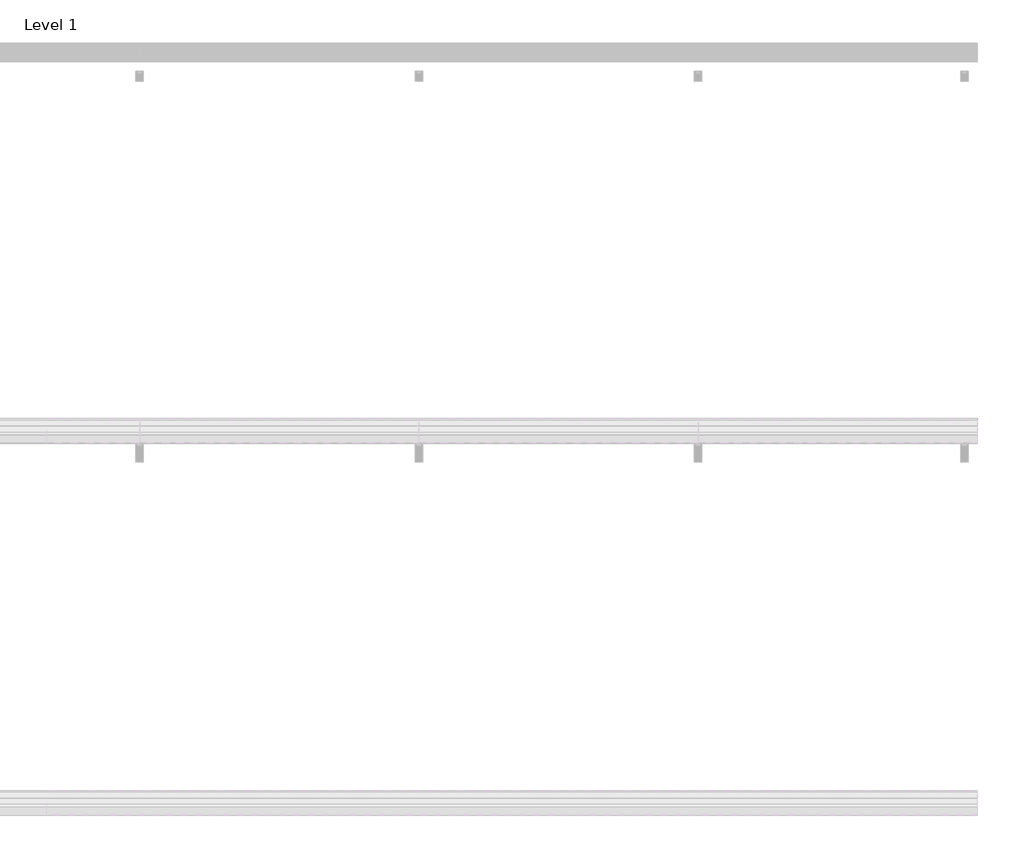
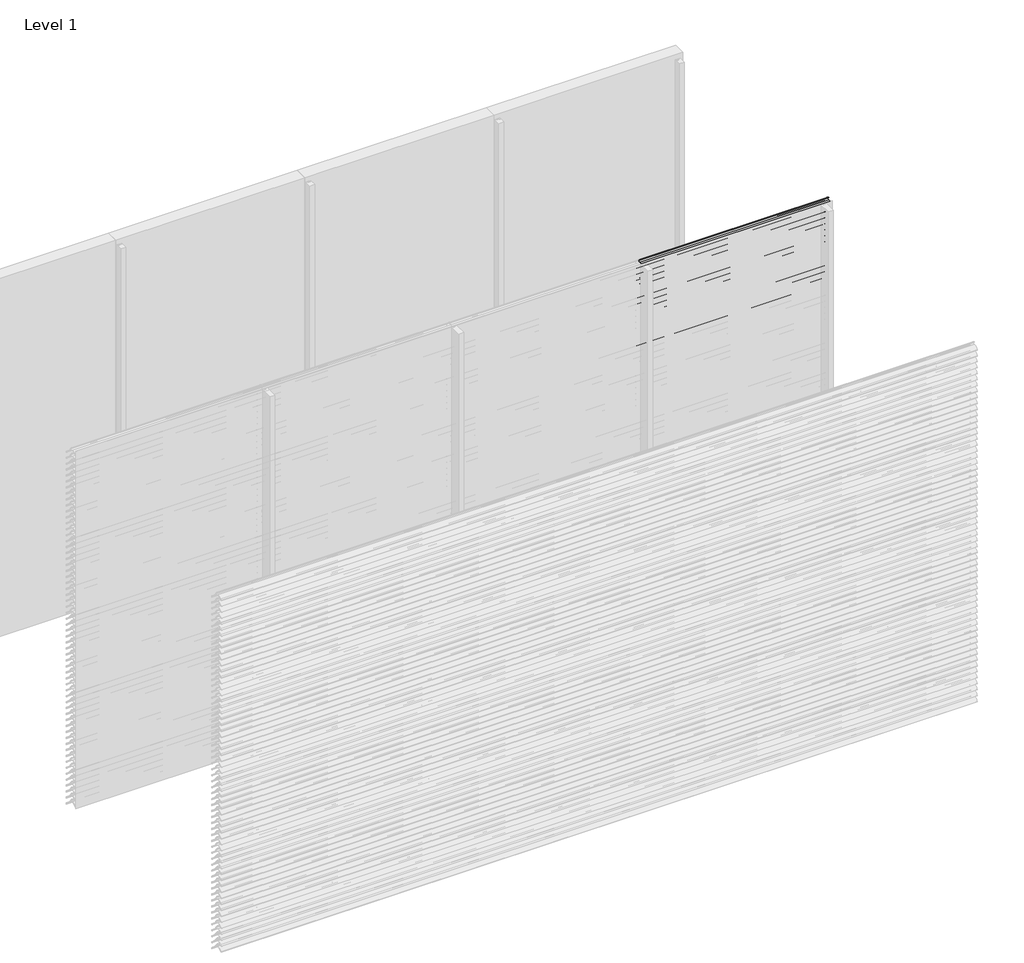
# One storey, part 68 of 173: 17 proxies.
"""IFC4 building model written with IfcOpenShell, lengths in millimetres."""

from ifc_helpers import new_model, si_unit, point, frame, frame_2d, origin, place, context, project, spatial, polyline, circle_curve, trimmed, segment, composite_curve, outline, extrude, element, save

model = new_model("IFC4")

# Units and contexts
model_context = context("Model", 3, world=origin())
ifc_project = project(units=[si_unit("LENGTHUNIT", "METRE", prefix="MILLI")], contexts=[model_context])

# Site, building, storey
site = spatial("IfcSite", under=ifc_project)
building = spatial("IfcBuilding", under=site)
storey = spatial("IfcBuildingStorey", under=building, Name="Level 1", Elevation=0.0)

# Proxies
placement = place(None, origin())
element("IfcBuildingElementProxy", 1, Name="Wall Sweeps", at=placement, inside=storey, context=model_context, shape_type="SweptSolid", body=[
    extrude(outline(composite_curve([segment(polyline([(-35998.0, 59.1474905), (-35998.0, 61.6227417)]), True, "CONTINUOUS"), segment(trimmed(circle_curve(frame_2d((-35951.2682172, 16.2200208)), 65.1557103), [point((-35998.0, 61.6227417))], [point((-35954.4014323, 81.3003524))], False, "CARTESIAN"), True, "CONTINUOUS"), segment(polyline([(-35954.4014323, 81.3003524), (-35934.8315836, 81.3003524)]), True, "CONTINUOUS"), segment(trimmed(circle_curve(frame_2d((-35732.7329489, 228.5533172)), 250.0545817), [point((-35934.8315836, 81.3003524))], [point((-35941.4452143, 90.8344583))], False, "CARTESIAN"), True, "CONTINUOUS"), segment(trimmed(circle_curve(frame_2d((-35953.2981792, 85.1737835)), 13.1352966), [point((-35941.4452143, 90.8344583))], [point((-35953.8171475, 98.298824))], True, "CARTESIAN"), True, "CONTINUOUS"), segment(polyline([(-35953.8171475, 98.298824), (-35953.8171475, 100.0)]), True, "CONTINUOUS"), segment(trimmed(circle_curve(frame_2d((-35953.2981792, 85.1737835)), 14.8352966), [point((-35953.8171475, 100.0))], [point((-35939.9637661, 91.6760487))], False, "CARTESIAN"), True, "CONTINUOUS"), segment(trimmed(circle_curve(frame_2d((-35732.7329489, 228.5533172)), 248.3545817), [point((-35939.9637661, 91.6760487))], [point((-35873.8787895, 24.2059416))], True, "CARTESIAN"), True, "CONTINUOUS"), segment(trimmed(circle_curve(frame_2d((-35883.8147537, 11.6649442)), 16.0), [point((-35873.8787895, 24.2059416))], [point((-35867.8648347, 10.4))], False, "CARTESIAN"), True, "CONTINUOUS"), segment(polyline([(-35867.8648347, 10.4), (-35869.6712069, 10.4)]), True, "CONTINUOUS"), segment(trimmed(circle_curve(frame_2d((-35883.8147537, 11.6649442)), 14.2), [point((-35869.6712069, 10.4))], [point((-35874.9518628, 22.7594998))], True, "CARTESIAN"), True, "CONTINUOUS"), segment(trimmed(circle_curve(frame_2d((-35732.7329489, 228.5533172)), 250.1545817), [point((-35874.9518628, 22.7594998))], [point((-35933.7064024, 79.6003524))], False, "CARTESIAN"), True, "CONTINUOUS"), segment(polyline([(-35933.7064024, 79.6003524), (-35954.3602632, 79.6003524)]), True, "CONTINUOUS"), segment(trimmed(circle_curve(frame_2d((-35951.2682172, 16.2200208)), 63.4557103), [point((-35954.3602632, 79.6003524))], [point((-35998.0, 59.1474905))], True, "CARTESIAN"), True, "CONTINUOUS")], self_intersect=False)), frame((3000.0, 0.0, 0.0), z_axis=(1.0, 0.0, 0.0), x_axis=(0.0, 1.0, 0.0)), (0.0, 0.0, 1.0), 1500.0),
])
element("IfcBuildingElementProxy", 2, Name="Wall Sweeps", at=placement, inside=storey, context=model_context, shape_type="SweptSolid", body=[
    extrude(outline(composite_curve([segment(polyline([(-35998.0, 9.1474905), (-35998.0, 11.6227417)]), True, "CONTINUOUS"), segment(trimmed(circle_curve(frame_2d((-35951.2682172, -33.7799792)), 65.1557103), [point((-35998.0, 11.6227417))], [point((-35954.4014323, 31.3003524))], False, "CARTESIAN"), True, "CONTINUOUS"), segment(polyline([(-35954.4014323, 31.3003524), (-35934.8315836, 31.3003524)]), True, "CONTINUOUS"), segment(trimmed(circle_curve(frame_2d((-35732.7329489, 178.5533172)), 250.0545817), [point((-35934.8315836, 31.3003524))], [point((-35941.4452143, 40.8344583))], False, "CARTESIAN"), True, "CONTINUOUS"), segment(trimmed(circle_curve(frame_2d((-35953.2981792, 35.1737835)), 13.1352966), [point((-35941.4452143, 40.8344583))], [point((-35953.8171475, 48.298824))], True, "CARTESIAN"), True, "CONTINUOUS"), segment(polyline([(-35953.8171475, 48.298824), (-35953.8171475, 50.0)]), True, "CONTINUOUS"), segment(trimmed(circle_curve(frame_2d((-35953.2981792, 35.1737835)), 14.8352966), [point((-35953.8171475, 50.0))], [point((-35939.9637661, 41.6760487))], False, "CARTESIAN"), True, "CONTINUOUS"), segment(trimmed(circle_curve(frame_2d((-35732.7329489, 178.5533172)), 248.3545817), [point((-35939.9637661, 41.6760487))], [point((-35873.8787895, -25.7940584))], True, "CARTESIAN"), True, "CONTINUOUS"), segment(trimmed(circle_curve(frame_2d((-35883.8147537, -38.3350558)), 16.0), [point((-35873.8787895, -25.7940584))], [point((-35867.8648347, -39.6))], False, "CARTESIAN"), True, "CONTINUOUS"), segment(polyline([(-35867.8648347, -39.6), (-35869.6712069, -39.6)]), True, "CONTINUOUS"), segment(trimmed(circle_curve(frame_2d((-35883.8147537, -38.3350558)), 14.2), [point((-35869.6712069, -39.6))], [point((-35874.9518628, -27.2405002))], True, "CARTESIAN"), True, "CONTINUOUS"), segment(trimmed(circle_curve(frame_2d((-35732.7329489, 178.5533172)), 250.1545817), [point((-35874.9518628, -27.2405002))], [point((-35933.7064024, 29.6003524))], False, "CARTESIAN"), True, "CONTINUOUS"), segment(polyline([(-35933.7064024, 29.6003524), (-35954.3602632, 29.6003524)]), True, "CONTINUOUS"), segment(trimmed(circle_curve(frame_2d((-35951.2682172, -33.7799792)), 63.4557103), [point((-35954.3602632, 29.6003524))], [point((-35998.0, 9.1474905))], True, "CARTESIAN"), True, "CONTINUOUS")], self_intersect=False)), frame((3000.0, 0.0, 0.0), z_axis=(1.0, 0.0, 0.0), x_axis=(0.0, 1.0, 0.0)), (0.0, 0.0, 1.0), 1500.0),
])
element("IfcBuildingElementProxy", 3, Name="Wall Sweeps", at=placement, inside=storey, context=model_context, shape_type="SweptSolid", body=[
    extrude(outline(composite_curve([segment(polyline([(-35998.0, 2959.1474905), (-35998.0, 2961.6227417)]), True, "CONTINUOUS"), segment(trimmed(circle_curve(frame_2d((-35951.2682172, 2916.2200208)), 65.1557103), [point((-35998.0, 2961.6227417))], [point((-35954.4014323, 2981.3003524))], False, "CARTESIAN"), True, "CONTINUOUS"), segment(polyline([(-35954.4014323, 2981.3003524), (-35934.8315836, 2981.3003524)]), True, "CONTINUOUS"), segment(trimmed(circle_curve(frame_2d((-35732.7329489, 3128.5533172)), 250.0545817), [point((-35934.8315836, 2981.3003524))], [point((-35941.4452143, 2990.8344583))], False, "CARTESIAN"), True, "CONTINUOUS"), segment(trimmed(circle_curve(frame_2d((-35953.2981792, 2985.1737835)), 13.1352966), [point((-35941.4452143, 2990.8344583))], [point((-35953.8171475, 2998.298824))], True, "CARTESIAN"), True, "CONTINUOUS"), segment(polyline([(-35953.8171475, 2998.298824), (-35953.8171475, 3000.0)]), True, "CONTINUOUS"), segment(trimmed(circle_curve(frame_2d((-35953.2981792, 2985.1737835)), 14.8352966), [point((-35953.8171475, 3000.0))], [point((-35939.9637661, 2991.6760487))], False, "CARTESIAN"), True, "CONTINUOUS"), segment(trimmed(circle_curve(frame_2d((-35732.7329489, 3128.5533172)), 248.3545817), [point((-35939.9637661, 2991.6760487))], [point((-35873.8787895, 2924.2059416))], True, "CARTESIAN"), True, "CONTINUOUS"), segment(trimmed(circle_curve(frame_2d((-35883.8147537, 2911.6649442)), 16.0), [point((-35873.8787895, 2924.2059416))], [point((-35867.8648347, 2910.4))], False, "CARTESIAN"), True, "CONTINUOUS"), segment(polyline([(-35867.8648347, 2910.4), (-35869.6712069, 2910.4)]), True, "CONTINUOUS"), segment(trimmed(circle_curve(frame_2d((-35883.8147537, 2911.6649442)), 14.2), [point((-35869.6712069, 2910.4))], [point((-35874.9518628, 2922.7594998))], True, "CARTESIAN"), True, "CONTINUOUS"), segment(trimmed(circle_curve(frame_2d((-35732.7329489, 3128.5533172)), 250.1545817), [point((-35874.9518628, 2922.7594998))], [point((-35933.7064024, 2979.6003524))], False, "CARTESIAN"), True, "CONTINUOUS"), segment(polyline([(-35933.7064024, 2979.6003524), (-35954.3602632, 2979.6003524)]), True, "CONTINUOUS"), segment(trimmed(circle_curve(frame_2d((-35951.2682172, 2916.2200208)), 63.4557103), [point((-35954.3602632, 2979.6003524))], [point((-35998.0, 2959.1474905))], True, "CARTESIAN"), True, "CONTINUOUS")], self_intersect=False)), frame((4500.0, 0.0, 0.0), z_axis=(1.0, 0.0, 0.0), x_axis=(0.0, 1.0, 0.0)), (0.0, 0.0, 1.0), 1500.0),
])
element("IfcBuildingElementProxy", 4, Name="Wall Sweeps", at=placement, inside=storey, context=model_context, shape_type="SweptSolid", body=[
    extrude(outline(composite_curve([segment(polyline([(-35998.0, 2909.1474905), (-35998.0, 2911.6227417)]), True, "CONTINUOUS"), segment(trimmed(circle_curve(frame_2d((-35951.2682172, 2866.2200208)), 65.1557103), [point((-35998.0, 2911.6227417))], [point((-35954.4014323, 2931.3003524))], False, "CARTESIAN"), True, "CONTINUOUS"), segment(polyline([(-35954.4014323, 2931.3003524), (-35934.8315836, 2931.3003524)]), True, "CONTINUOUS"), segment(trimmed(circle_curve(frame_2d((-35732.7329489, 3078.5533172)), 250.0545817), [point((-35934.8315836, 2931.3003524))], [point((-35941.4452143, 2940.8344583))], False, "CARTESIAN"), True, "CONTINUOUS"), segment(trimmed(circle_curve(frame_2d((-35953.2981792, 2935.1737835)), 13.1352966), [point((-35941.4452143, 2940.8344583))], [point((-35953.8171475, 2948.298824))], True, "CARTESIAN"), True, "CONTINUOUS"), segment(polyline([(-35953.8171475, 2948.298824), (-35953.8171475, 2950.0)]), True, "CONTINUOUS"), segment(trimmed(circle_curve(frame_2d((-35953.2981792, 2935.1737835)), 14.8352966), [point((-35953.8171475, 2950.0))], [point((-35939.9637661, 2941.6760487))], False, "CARTESIAN"), True, "CONTINUOUS"), segment(trimmed(circle_curve(frame_2d((-35732.7329489, 3078.5533172)), 248.3545817), [point((-35939.9637661, 2941.6760487))], [point((-35873.8787895, 2874.2059416))], True, "CARTESIAN"), True, "CONTINUOUS"), segment(trimmed(circle_curve(frame_2d((-35883.8147537, 2861.6649442)), 16.0), [point((-35873.8787895, 2874.2059416))], [point((-35867.8648347, 2860.4))], False, "CARTESIAN"), True, "CONTINUOUS"), segment(polyline([(-35867.8648347, 2860.4), (-35869.6712069, 2860.4)]), True, "CONTINUOUS"), segment(trimmed(circle_curve(frame_2d((-35883.8147537, 2861.6649442)), 14.2), [point((-35869.6712069, 2860.4))], [point((-35874.9518628, 2872.7594998))], True, "CARTESIAN"), True, "CONTINUOUS"), segment(trimmed(circle_curve(frame_2d((-35732.7329489, 3078.5533172)), 250.1545817), [point((-35874.9518628, 2872.7594998))], [point((-35933.7064024, 2929.6003524))], False, "CARTESIAN"), True, "CONTINUOUS"), segment(polyline([(-35933.7064024, 2929.6003524), (-35954.3602632, 2929.6003524)]), True, "CONTINUOUS"), segment(trimmed(circle_curve(frame_2d((-35951.2682172, 2866.2200208)), 63.4557103), [point((-35954.3602632, 2929.6003524))], [point((-35998.0, 2909.1474905))], True, "CARTESIAN"), True, "CONTINUOUS")], self_intersect=False)), frame((4500.0, 0.0, 0.0), z_axis=(1.0, 0.0, 0.0), x_axis=(0.0, 1.0, 0.0)), (0.0, 0.0, 1.0), 1500.0),
])
element("IfcBuildingElementProxy", 5, Name="Wall Sweeps", at=placement, inside=storey, context=model_context, shape_type="SweptSolid", body=[
    extrude(outline(composite_curve([segment(polyline([(-35998.0, 2859.1474905), (-35998.0, 2861.6227417)]), True, "CONTINUOUS"), segment(trimmed(circle_curve(frame_2d((-35951.2682172, 2816.2200208)), 65.1557103), [point((-35998.0, 2861.6227417))], [point((-35954.4014323, 2881.3003524))], False, "CARTESIAN"), True, "CONTINUOUS"), segment(polyline([(-35954.4014323, 2881.3003524), (-35934.8315836, 2881.3003524)]), True, "CONTINUOUS"), segment(trimmed(circle_curve(frame_2d((-35732.7329489, 3028.5533172)), 250.0545817), [point((-35934.8315836, 2881.3003524))], [point((-35941.4452143, 2890.8344583))], False, "CARTESIAN"), True, "CONTINUOUS"), segment(trimmed(circle_curve(frame_2d((-35953.2981792, 2885.1737835)), 13.1352966), [point((-35941.4452143, 2890.8344583))], [point((-35953.8171475, 2898.298824))], True, "CARTESIAN"), True, "CONTINUOUS"), segment(polyline([(-35953.8171475, 2898.298824), (-35953.8171475, 2900.0)]), True, "CONTINUOUS"), segment(trimmed(circle_curve(frame_2d((-35953.2981792, 2885.1737835)), 14.8352966), [point((-35953.8171475, 2900.0))], [point((-35939.9637661, 2891.6760487))], False, "CARTESIAN"), True, "CONTINUOUS"), segment(trimmed(circle_curve(frame_2d((-35732.7329489, 3028.5533172)), 248.3545817), [point((-35939.9637661, 2891.6760487))], [point((-35873.8787895, 2824.2059416))], True, "CARTESIAN"), True, "CONTINUOUS"), segment(trimmed(circle_curve(frame_2d((-35883.8147537, 2811.6649442)), 16.0), [point((-35873.8787895, 2824.2059416))], [point((-35867.8648347, 2810.4))], False, "CARTESIAN"), True, "CONTINUOUS"), segment(polyline([(-35867.8648347, 2810.4), (-35869.6712069, 2810.4)]), True, "CONTINUOUS"), segment(trimmed(circle_curve(frame_2d((-35883.8147537, 2811.6649442)), 14.2), [point((-35869.6712069, 2810.4))], [point((-35874.9518628, 2822.7594998))], True, "CARTESIAN"), True, "CONTINUOUS"), segment(trimmed(circle_curve(frame_2d((-35732.7329489, 3028.5533172)), 250.1545817), [point((-35874.9518628, 2822.7594998))], [point((-35933.7064024, 2879.6003524))], False, "CARTESIAN"), True, "CONTINUOUS"), segment(polyline([(-35933.7064024, 2879.6003524), (-35954.3602632, 2879.6003524)]), True, "CONTINUOUS"), segment(trimmed(circle_curve(frame_2d((-35951.2682172, 2816.2200208)), 63.4557103), [point((-35954.3602632, 2879.6003524))], [point((-35998.0, 2859.1474905))], True, "CARTESIAN"), True, "CONTINUOUS")], self_intersect=False)), frame((4500.0, 0.0, 0.0), z_axis=(1.0, 0.0, 0.0), x_axis=(0.0, 1.0, 0.0)), (0.0, 0.0, 1.0), 1500.0),
])
element("IfcBuildingElementProxy", 6, Name="Wall Sweeps", at=placement, inside=storey, context=model_context, shape_type="SweptSolid", body=[
    extrude(outline(composite_curve([segment(polyline([(-35998.0, 2809.1474905), (-35998.0, 2811.6227417)]), True, "CONTINUOUS"), segment(trimmed(circle_curve(frame_2d((-35951.2682172, 2766.2200208)), 65.1557103), [point((-35998.0, 2811.6227417))], [point((-35954.4014323, 2831.3003524))], False, "CARTESIAN"), True, "CONTINUOUS"), segment(polyline([(-35954.4014323, 2831.3003524), (-35934.8315836, 2831.3003524)]), True, "CONTINUOUS"), segment(trimmed(circle_curve(frame_2d((-35732.7329489, 2978.5533172)), 250.0545817), [point((-35934.8315836, 2831.3003524))], [point((-35941.4452143, 2840.8344583))], False, "CARTESIAN"), True, "CONTINUOUS"), segment(trimmed(circle_curve(frame_2d((-35953.2981792, 2835.1737835)), 13.1352966), [point((-35941.4452143, 2840.8344583))], [point((-35953.8171475, 2848.298824))], True, "CARTESIAN"), True, "CONTINUOUS"), segment(polyline([(-35953.8171475, 2848.298824), (-35953.8171475, 2850.0)]), True, "CONTINUOUS"), segment(trimmed(circle_curve(frame_2d((-35953.2981792, 2835.1737835)), 14.8352966), [point((-35953.8171475, 2850.0))], [point((-35939.9637661, 2841.6760487))], False, "CARTESIAN"), True, "CONTINUOUS"), segment(trimmed(circle_curve(frame_2d((-35732.7329489, 2978.5533172)), 248.3545817), [point((-35939.9637661, 2841.6760487))], [point((-35873.8787895, 2774.2059416))], True, "CARTESIAN"), True, "CONTINUOUS"), segment(trimmed(circle_curve(frame_2d((-35883.8147537, 2761.6649442)), 16.0), [point((-35873.8787895, 2774.2059416))], [point((-35867.8648347, 2760.4))], False, "CARTESIAN"), True, "CONTINUOUS"), segment(polyline([(-35867.8648347, 2760.4), (-35869.6712069, 2760.4)]), True, "CONTINUOUS"), segment(trimmed(circle_curve(frame_2d((-35883.8147537, 2761.6649442)), 14.2), [point((-35869.6712069, 2760.4))], [point((-35874.9518628, 2772.7594998))], True, "CARTESIAN"), True, "CONTINUOUS"), segment(trimmed(circle_curve(frame_2d((-35732.7329489, 2978.5533172)), 250.1545817), [point((-35874.9518628, 2772.7594998))], [point((-35933.7064024, 2829.6003524))], False, "CARTESIAN"), True, "CONTINUOUS"), segment(polyline([(-35933.7064024, 2829.6003524), (-35954.3602632, 2829.6003524)]), True, "CONTINUOUS"), segment(trimmed(circle_curve(frame_2d((-35951.2682172, 2766.2200208)), 63.4557103), [point((-35954.3602632, 2829.6003524))], [point((-35998.0, 2809.1474905))], True, "CARTESIAN"), True, "CONTINUOUS")], self_intersect=False)), frame((4500.0, 0.0, 0.0), z_axis=(1.0, 0.0, 0.0), x_axis=(0.0, 1.0, 0.0)), (0.0, 0.0, 1.0), 1500.0),
])
element("IfcBuildingElementProxy", 7, Name="Wall Sweeps", at=placement, inside=storey, context=model_context, shape_type="SweptSolid", body=[
    extrude(outline(composite_curve([segment(polyline([(-35998.0, 2759.1474905), (-35998.0, 2761.6227417)]), True, "CONTINUOUS"), segment(trimmed(circle_curve(frame_2d((-35951.2682172, 2716.2200208)), 65.1557103), [point((-35998.0, 2761.6227417))], [point((-35954.4014323, 2781.3003524))], False, "CARTESIAN"), True, "CONTINUOUS"), segment(polyline([(-35954.4014323, 2781.3003524), (-35934.8315836, 2781.3003524)]), True, "CONTINUOUS"), segment(trimmed(circle_curve(frame_2d((-35732.7329489, 2928.5533172)), 250.0545817), [point((-35934.8315836, 2781.3003524))], [point((-35941.4452143, 2790.8344583))], False, "CARTESIAN"), True, "CONTINUOUS"), segment(trimmed(circle_curve(frame_2d((-35953.2981792, 2785.1737835)), 13.1352966), [point((-35941.4452143, 2790.8344583))], [point((-35953.8171475, 2798.298824))], True, "CARTESIAN"), True, "CONTINUOUS"), segment(polyline([(-35953.8171475, 2798.298824), (-35953.8171475, 2800.0)]), True, "CONTINUOUS"), segment(trimmed(circle_curve(frame_2d((-35953.2981792, 2785.1737835)), 14.8352966), [point((-35953.8171475, 2800.0))], [point((-35939.9637661, 2791.6760487))], False, "CARTESIAN"), True, "CONTINUOUS"), segment(trimmed(circle_curve(frame_2d((-35732.7329489, 2928.5533172)), 248.3545817), [point((-35939.9637661, 2791.6760487))], [point((-35873.8787895, 2724.2059416))], True, "CARTESIAN"), True, "CONTINUOUS"), segment(trimmed(circle_curve(frame_2d((-35883.8147537, 2711.6649442)), 16.0), [point((-35873.8787895, 2724.2059416))], [point((-35867.8648347, 2710.4))], False, "CARTESIAN"), True, "CONTINUOUS"), segment(polyline([(-35867.8648347, 2710.4), (-35869.6712069, 2710.4)]), True, "CONTINUOUS"), segment(trimmed(circle_curve(frame_2d((-35883.8147537, 2711.6649442)), 14.2), [point((-35869.6712069, 2710.4))], [point((-35874.9518628, 2722.7594998))], True, "CARTESIAN"), True, "CONTINUOUS"), segment(trimmed(circle_curve(frame_2d((-35732.7329489, 2928.5533172)), 250.1545817), [point((-35874.9518628, 2722.7594998))], [point((-35933.7064024, 2779.6003524))], False, "CARTESIAN"), True, "CONTINUOUS"), segment(polyline([(-35933.7064024, 2779.6003524), (-35954.3602632, 2779.6003524)]), True, "CONTINUOUS"), segment(trimmed(circle_curve(frame_2d((-35951.2682172, 2716.2200208)), 63.4557103), [point((-35954.3602632, 2779.6003524))], [point((-35998.0, 2759.1474905))], True, "CARTESIAN"), True, "CONTINUOUS")], self_intersect=False)), frame((4500.0, 0.0, 0.0), z_axis=(1.0, 0.0, 0.0), x_axis=(0.0, 1.0, 0.0)), (0.0, 0.0, 1.0), 1500.0),
])
element("IfcBuildingElementProxy", 8, Name="Wall Sweeps", at=placement, inside=storey, context=model_context, shape_type="SweptSolid", body=[
    extrude(outline(composite_curve([segment(polyline([(-35998.0, 2709.1474905), (-35998.0, 2711.6227417)]), True, "CONTINUOUS"), segment(trimmed(circle_curve(frame_2d((-35951.2682172, 2666.2200208)), 65.1557103), [point((-35998.0, 2711.6227417))], [point((-35954.4014323, 2731.3003524))], False, "CARTESIAN"), True, "CONTINUOUS"), segment(polyline([(-35954.4014323, 2731.3003524), (-35934.8315836, 2731.3003524)]), True, "CONTINUOUS"), segment(trimmed(circle_curve(frame_2d((-35732.7329489, 2878.5533172)), 250.0545817), [point((-35934.8315836, 2731.3003524))], [point((-35941.4452143, 2740.8344583))], False, "CARTESIAN"), True, "CONTINUOUS"), segment(trimmed(circle_curve(frame_2d((-35953.2981792, 2735.1737835)), 13.1352966), [point((-35941.4452143, 2740.8344583))], [point((-35953.8171475, 2748.298824))], True, "CARTESIAN"), True, "CONTINUOUS"), segment(polyline([(-35953.8171475, 2748.298824), (-35953.8171475, 2750.0)]), True, "CONTINUOUS"), segment(trimmed(circle_curve(frame_2d((-35953.2981792, 2735.1737835)), 14.8352966), [point((-35953.8171475, 2750.0))], [point((-35939.9637661, 2741.6760487))], False, "CARTESIAN"), True, "CONTINUOUS"), segment(trimmed(circle_curve(frame_2d((-35732.7329489, 2878.5533172)), 248.3545817), [point((-35939.9637661, 2741.6760487))], [point((-35873.8787895, 2674.2059416))], True, "CARTESIAN"), True, "CONTINUOUS"), segment(trimmed(circle_curve(frame_2d((-35883.8147537, 2661.6649442)), 16.0), [point((-35873.8787895, 2674.2059416))], [point((-35867.8648347, 2660.4))], False, "CARTESIAN"), True, "CONTINUOUS"), segment(polyline([(-35867.8648347, 2660.4), (-35869.6712069, 2660.4)]), True, "CONTINUOUS"), segment(trimmed(circle_curve(frame_2d((-35883.8147537, 2661.6649442)), 14.2), [point((-35869.6712069, 2660.4))], [point((-35874.9518628, 2672.7594998))], True, "CARTESIAN"), True, "CONTINUOUS"), segment(trimmed(circle_curve(frame_2d((-35732.7329489, 2878.5533172)), 250.1545817), [point((-35874.9518628, 2672.7594998))], [point((-35933.7064024, 2729.6003524))], False, "CARTESIAN"), True, "CONTINUOUS"), segment(polyline([(-35933.7064024, 2729.6003524), (-35954.3602632, 2729.6003524)]), True, "CONTINUOUS"), segment(trimmed(circle_curve(frame_2d((-35951.2682172, 2666.2200208)), 63.4557103), [point((-35954.3602632, 2729.6003524))], [point((-35998.0, 2709.1474905))], True, "CARTESIAN"), True, "CONTINUOUS")], self_intersect=False)), frame((4500.0, 0.0, 0.0), z_axis=(1.0, 0.0, 0.0), x_axis=(0.0, 1.0, 0.0)), (0.0, 0.0, 1.0), 1500.0),
])
element("IfcBuildingElementProxy", 9, Name="Wall Sweeps", at=placement, inside=storey, context=model_context, shape_type="SweptSolid", body=[
    extrude(outline(composite_curve([segment(polyline([(-35998.0, 2659.1474905), (-35998.0, 2661.6227417)]), True, "CONTINUOUS"), segment(trimmed(circle_curve(frame_2d((-35951.2682172, 2616.2200208)), 65.1557103), [point((-35998.0, 2661.6227417))], [point((-35954.4014323, 2681.3003524))], False, "CARTESIAN"), True, "CONTINUOUS"), segment(polyline([(-35954.4014323, 2681.3003524), (-35934.8315836, 2681.3003524)]), True, "CONTINUOUS"), segment(trimmed(circle_curve(frame_2d((-35732.7329489, 2828.5533172)), 250.0545817), [point((-35934.8315836, 2681.3003524))], [point((-35941.4452143, 2690.8344583))], False, "CARTESIAN"), True, "CONTINUOUS"), segment(trimmed(circle_curve(frame_2d((-35953.2981792, 2685.1737835)), 13.1352966), [point((-35941.4452143, 2690.8344583))], [point((-35953.8171475, 2698.298824))], True, "CARTESIAN"), True, "CONTINUOUS"), segment(polyline([(-35953.8171475, 2698.298824), (-35953.8171475, 2700.0)]), True, "CONTINUOUS"), segment(trimmed(circle_curve(frame_2d((-35953.2981792, 2685.1737835)), 14.8352966), [point((-35953.8171475, 2700.0))], [point((-35939.9637661, 2691.6760487))], False, "CARTESIAN"), True, "CONTINUOUS"), segment(trimmed(circle_curve(frame_2d((-35732.7329489, 2828.5533172)), 248.3545817), [point((-35939.9637661, 2691.6760487))], [point((-35873.8787895, 2624.2059416))], True, "CARTESIAN"), True, "CONTINUOUS"), segment(trimmed(circle_curve(frame_2d((-35883.8147537, 2611.6649442)), 16.0), [point((-35873.8787895, 2624.2059416))], [point((-35867.8648347, 2610.4))], False, "CARTESIAN"), True, "CONTINUOUS"), segment(polyline([(-35867.8648347, 2610.4), (-35869.6712069, 2610.4)]), True, "CONTINUOUS"), segment(trimmed(circle_curve(frame_2d((-35883.8147537, 2611.6649442)), 14.2), [point((-35869.6712069, 2610.4))], [point((-35874.9518628, 2622.7594998))], True, "CARTESIAN"), True, "CONTINUOUS"), segment(trimmed(circle_curve(frame_2d((-35732.7329489, 2828.5533172)), 250.1545817), [point((-35874.9518628, 2622.7594998))], [point((-35933.7064024, 2679.6003524))], False, "CARTESIAN"), True, "CONTINUOUS"), segment(polyline([(-35933.7064024, 2679.6003524), (-35954.3602632, 2679.6003524)]), True, "CONTINUOUS"), segment(trimmed(circle_curve(frame_2d((-35951.2682172, 2616.2200208)), 63.4557103), [point((-35954.3602632, 2679.6003524))], [point((-35998.0, 2659.1474905))], True, "CARTESIAN"), True, "CONTINUOUS")], self_intersect=False)), frame((4500.0, 0.0, 0.0), z_axis=(1.0, 0.0, 0.0), x_axis=(0.0, 1.0, 0.0)), (0.0, 0.0, 1.0), 1500.0),
])
element("IfcBuildingElementProxy", 10, Name="Wall Sweeps", at=placement, inside=storey, context=model_context, shape_type="SweptSolid", body=[
    extrude(outline(composite_curve([segment(polyline([(-35998.0, 2609.1474905), (-35998.0, 2611.6227417)]), True, "CONTINUOUS"), segment(trimmed(circle_curve(frame_2d((-35951.2682172, 2566.2200208)), 65.1557103), [point((-35998.0, 2611.6227417))], [point((-35954.4014323, 2631.3003524))], False, "CARTESIAN"), True, "CONTINUOUS"), segment(polyline([(-35954.4014323, 2631.3003524), (-35934.8315836, 2631.3003524)]), True, "CONTINUOUS"), segment(trimmed(circle_curve(frame_2d((-35732.7329489, 2778.5533172)), 250.0545817), [point((-35934.8315836, 2631.3003524))], [point((-35941.4452143, 2640.8344583))], False, "CARTESIAN"), True, "CONTINUOUS"), segment(trimmed(circle_curve(frame_2d((-35953.2981792, 2635.1737835)), 13.1352966), [point((-35941.4452143, 2640.8344583))], [point((-35953.8171475, 2648.298824))], True, "CARTESIAN"), True, "CONTINUOUS"), segment(polyline([(-35953.8171475, 2648.298824), (-35953.8171475, 2650.0)]), True, "CONTINUOUS"), segment(trimmed(circle_curve(frame_2d((-35953.2981792, 2635.1737835)), 14.8352966), [point((-35953.8171475, 2650.0))], [point((-35939.9637661, 2641.6760487))], False, "CARTESIAN"), True, "CONTINUOUS"), segment(trimmed(circle_curve(frame_2d((-35732.7329489, 2778.5533172)), 248.3545817), [point((-35939.9637661, 2641.6760487))], [point((-35873.8787895, 2574.2059416))], True, "CARTESIAN"), True, "CONTINUOUS"), segment(trimmed(circle_curve(frame_2d((-35883.8147537, 2561.6649442)), 16.0), [point((-35873.8787895, 2574.2059416))], [point((-35867.8648347, 2560.4))], False, "CARTESIAN"), True, "CONTINUOUS"), segment(polyline([(-35867.8648347, 2560.4), (-35869.6712069, 2560.4)]), True, "CONTINUOUS"), segment(trimmed(circle_curve(frame_2d((-35883.8147537, 2561.6649442)), 14.2), [point((-35869.6712069, 2560.4))], [point((-35874.9518628, 2572.7594998))], True, "CARTESIAN"), True, "CONTINUOUS"), segment(trimmed(circle_curve(frame_2d((-35732.7329489, 2778.5533172)), 250.1545817), [point((-35874.9518628, 2572.7594998))], [point((-35933.7064024, 2629.6003524))], False, "CARTESIAN"), True, "CONTINUOUS"), segment(polyline([(-35933.7064024, 2629.6003524), (-35954.3602632, 2629.6003524)]), True, "CONTINUOUS"), segment(trimmed(circle_curve(frame_2d((-35951.2682172, 2566.2200208)), 63.4557103), [point((-35954.3602632, 2629.6003524))], [point((-35998.0, 2609.1474905))], True, "CARTESIAN"), True, "CONTINUOUS")], self_intersect=False)), frame((4500.0, 0.0, 0.0), z_axis=(1.0, 0.0, 0.0), x_axis=(0.0, 1.0, 0.0)), (0.0, 0.0, 1.0), 1500.0),
])
element("IfcBuildingElementProxy", 11, Name="Wall Sweeps", at=placement, inside=storey, context=model_context, shape_type="SweptSolid", body=[
    extrude(outline(composite_curve([segment(polyline([(-35998.0, 2559.1474905), (-35998.0, 2561.6227417)]), True, "CONTINUOUS"), segment(trimmed(circle_curve(frame_2d((-35951.2682172, 2516.2200208)), 65.1557103), [point((-35998.0, 2561.6227417))], [point((-35954.4014323, 2581.3003524))], False, "CARTESIAN"), True, "CONTINUOUS"), segment(polyline([(-35954.4014323, 2581.3003524), (-35934.8315836, 2581.3003524)]), True, "CONTINUOUS"), segment(trimmed(circle_curve(frame_2d((-35732.7329489, 2728.5533172)), 250.0545817), [point((-35934.8315836, 2581.3003524))], [point((-35941.4452143, 2590.8344583))], False, "CARTESIAN"), True, "CONTINUOUS"), segment(trimmed(circle_curve(frame_2d((-35953.2981792, 2585.1737835)), 13.1352966), [point((-35941.4452143, 2590.8344583))], [point((-35953.8171475, 2598.298824))], True, "CARTESIAN"), True, "CONTINUOUS"), segment(polyline([(-35953.8171475, 2598.298824), (-35953.8171475, 2600.0)]), True, "CONTINUOUS"), segment(trimmed(circle_curve(frame_2d((-35953.2981792, 2585.1737835)), 14.8352966), [point((-35953.8171475, 2600.0))], [point((-35939.9637661, 2591.6760487))], False, "CARTESIAN"), True, "CONTINUOUS"), segment(trimmed(circle_curve(frame_2d((-35732.7329489, 2728.5533172)), 248.3545817), [point((-35939.9637661, 2591.6760487))], [point((-35873.8787895, 2524.2059416))], True, "CARTESIAN"), True, "CONTINUOUS"), segment(trimmed(circle_curve(frame_2d((-35883.8147537, 2511.6649442)), 16.0), [point((-35873.8787895, 2524.2059416))], [point((-35867.8648347, 2510.4))], False, "CARTESIAN"), True, "CONTINUOUS"), segment(polyline([(-35867.8648347, 2510.4), (-35869.6712069, 2510.4)]), True, "CONTINUOUS"), segment(trimmed(circle_curve(frame_2d((-35883.8147537, 2511.6649442)), 14.2), [point((-35869.6712069, 2510.4))], [point((-35874.9518628, 2522.7594998))], True, "CARTESIAN"), True, "CONTINUOUS"), segment(trimmed(circle_curve(frame_2d((-35732.7329489, 2728.5533172)), 250.1545817), [point((-35874.9518628, 2522.7594998))], [point((-35933.7064024, 2579.6003524))], False, "CARTESIAN"), True, "CONTINUOUS"), segment(polyline([(-35933.7064024, 2579.6003524), (-35954.3602632, 2579.6003524)]), True, "CONTINUOUS"), segment(trimmed(circle_curve(frame_2d((-35951.2682172, 2516.2200208)), 63.4557103), [point((-35954.3602632, 2579.6003524))], [point((-35998.0, 2559.1474905))], True, "CARTESIAN"), True, "CONTINUOUS")], self_intersect=False)), frame((4500.0, 0.0, 0.0), z_axis=(1.0, 0.0, 0.0), x_axis=(0.0, 1.0, 0.0)), (0.0, 0.0, 1.0), 1500.0),
])
element("IfcBuildingElementProxy", 12, Name="Wall Sweeps", at=placement, inside=storey, context=model_context, shape_type="SweptSolid", body=[
    extrude(outline(composite_curve([segment(polyline([(-35998.0, 2509.1474905), (-35998.0, 2511.6227417)]), True, "CONTINUOUS"), segment(trimmed(circle_curve(frame_2d((-35951.2682172, 2466.2200208)), 65.1557103), [point((-35998.0, 2511.6227417))], [point((-35954.4014323, 2531.3003524))], False, "CARTESIAN"), True, "CONTINUOUS"), segment(polyline([(-35954.4014323, 2531.3003524), (-35934.8315836, 2531.3003524)]), True, "CONTINUOUS"), segment(trimmed(circle_curve(frame_2d((-35732.7329489, 2678.5533172)), 250.0545817), [point((-35934.8315836, 2531.3003524))], [point((-35941.4452143, 2540.8344583))], False, "CARTESIAN"), True, "CONTINUOUS"), segment(trimmed(circle_curve(frame_2d((-35953.2981792, 2535.1737835)), 13.1352966), [point((-35941.4452143, 2540.8344583))], [point((-35953.8171475, 2548.298824))], True, "CARTESIAN"), True, "CONTINUOUS"), segment(polyline([(-35953.8171475, 2548.298824), (-35953.8171475, 2550.0)]), True, "CONTINUOUS"), segment(trimmed(circle_curve(frame_2d((-35953.2981792, 2535.1737835)), 14.8352966), [point((-35953.8171475, 2550.0))], [point((-35939.9637661, 2541.6760487))], False, "CARTESIAN"), True, "CONTINUOUS"), segment(trimmed(circle_curve(frame_2d((-35732.7329489, 2678.5533172)), 248.3545817), [point((-35939.9637661, 2541.6760487))], [point((-35873.8787895, 2474.2059416))], True, "CARTESIAN"), True, "CONTINUOUS"), segment(trimmed(circle_curve(frame_2d((-35883.8147537, 2461.6649442)), 16.0), [point((-35873.8787895, 2474.2059416))], [point((-35867.8648347, 2460.4))], False, "CARTESIAN"), True, "CONTINUOUS"), segment(polyline([(-35867.8648347, 2460.4), (-35869.6712069, 2460.4)]), True, "CONTINUOUS"), segment(trimmed(circle_curve(frame_2d((-35883.8147537, 2461.6649442)), 14.2), [point((-35869.6712069, 2460.4))], [point((-35874.9518628, 2472.7594998))], True, "CARTESIAN"), True, "CONTINUOUS"), segment(trimmed(circle_curve(frame_2d((-35732.7329489, 2678.5533172)), 250.1545817), [point((-35874.9518628, 2472.7594998))], [point((-35933.7064024, 2529.6003524))], False, "CARTESIAN"), True, "CONTINUOUS"), segment(polyline([(-35933.7064024, 2529.6003524), (-35954.3602632, 2529.6003524)]), True, "CONTINUOUS"), segment(trimmed(circle_curve(frame_2d((-35951.2682172, 2466.2200208)), 63.4557103), [point((-35954.3602632, 2529.6003524))], [point((-35998.0, 2509.1474905))], True, "CARTESIAN"), True, "CONTINUOUS")], self_intersect=False)), frame((4500.0, 0.0, 0.0), z_axis=(1.0, 0.0, 0.0), x_axis=(0.0, 1.0, 0.0)), (0.0, 0.0, 1.0), 1500.0),
])
element("IfcBuildingElementProxy", 13, Name="Wall Sweeps", at=placement, inside=storey, context=model_context, shape_type="SweptSolid", body=[
    extrude(outline(composite_curve([segment(polyline([(-35998.0, 2459.1474905), (-35998.0, 2461.6227417)]), True, "CONTINUOUS"), segment(trimmed(circle_curve(frame_2d((-35951.2682172, 2416.2200208)), 65.1557103), [point((-35998.0, 2461.6227417))], [point((-35954.4014323, 2481.3003524))], False, "CARTESIAN"), True, "CONTINUOUS"), segment(polyline([(-35954.4014323, 2481.3003524), (-35934.8315836, 2481.3003524)]), True, "CONTINUOUS"), segment(trimmed(circle_curve(frame_2d((-35732.7329489, 2628.5533172)), 250.0545817), [point((-35934.8315836, 2481.3003524))], [point((-35941.4452143, 2490.8344583))], False, "CARTESIAN"), True, "CONTINUOUS"), segment(trimmed(circle_curve(frame_2d((-35953.2981792, 2485.1737835)), 13.1352966), [point((-35941.4452143, 2490.8344583))], [point((-35953.8171475, 2498.298824))], True, "CARTESIAN"), True, "CONTINUOUS"), segment(polyline([(-35953.8171475, 2498.298824), (-35953.8171475, 2500.0)]), True, "CONTINUOUS"), segment(trimmed(circle_curve(frame_2d((-35953.2981792, 2485.1737835)), 14.8352966), [point((-35953.8171475, 2500.0))], [point((-35939.9637661, 2491.6760487))], False, "CARTESIAN"), True, "CONTINUOUS"), segment(trimmed(circle_curve(frame_2d((-35732.7329489, 2628.5533172)), 248.3545817), [point((-35939.9637661, 2491.6760487))], [point((-35873.8787895, 2424.2059416))], True, "CARTESIAN"), True, "CONTINUOUS"), segment(trimmed(circle_curve(frame_2d((-35883.8147537, 2411.6649442)), 16.0), [point((-35873.8787895, 2424.2059416))], [point((-35867.8648347, 2410.4))], False, "CARTESIAN"), True, "CONTINUOUS"), segment(polyline([(-35867.8648347, 2410.4), (-35869.6712069, 2410.4)]), True, "CONTINUOUS"), segment(trimmed(circle_curve(frame_2d((-35883.8147537, 2411.6649442)), 14.2), [point((-35869.6712069, 2410.4))], [point((-35874.9518628, 2422.7594998))], True, "CARTESIAN"), True, "CONTINUOUS"), segment(trimmed(circle_curve(frame_2d((-35732.7329489, 2628.5533172)), 250.1545817), [point((-35874.9518628, 2422.7594998))], [point((-35933.7064024, 2479.6003524))], False, "CARTESIAN"), True, "CONTINUOUS"), segment(polyline([(-35933.7064024, 2479.6003524), (-35954.3602632, 2479.6003524)]), True, "CONTINUOUS"), segment(trimmed(circle_curve(frame_2d((-35951.2682172, 2416.2200208)), 63.4557103), [point((-35954.3602632, 2479.6003524))], [point((-35998.0, 2459.1474905))], True, "CARTESIAN"), True, "CONTINUOUS")], self_intersect=False)), frame((4500.0, 0.0, 0.0), z_axis=(1.0, 0.0, 0.0), x_axis=(0.0, 1.0, 0.0)), (0.0, 0.0, 1.0), 1500.0),
])
element("IfcBuildingElementProxy", 14, Name="Wall Sweeps", at=placement, inside=storey, context=model_context, shape_type="SweptSolid", body=[
    extrude(outline(composite_curve([segment(polyline([(-35998.0, 2409.1474905), (-35998.0, 2411.6227417)]), True, "CONTINUOUS"), segment(trimmed(circle_curve(frame_2d((-35951.2682172, 2366.2200208)), 65.1557103), [point((-35998.0, 2411.6227417))], [point((-35954.4014323, 2431.3003524))], False, "CARTESIAN"), True, "CONTINUOUS"), segment(polyline([(-35954.4014323, 2431.3003524), (-35934.8315836, 2431.3003524)]), True, "CONTINUOUS"), segment(trimmed(circle_curve(frame_2d((-35732.7329489, 2578.5533172)), 250.0545817), [point((-35934.8315836, 2431.3003524))], [point((-35941.4452143, 2440.8344583))], False, "CARTESIAN"), True, "CONTINUOUS"), segment(trimmed(circle_curve(frame_2d((-35953.2981792, 2435.1737835)), 13.1352966), [point((-35941.4452143, 2440.8344583))], [point((-35953.8171475, 2448.298824))], True, "CARTESIAN"), True, "CONTINUOUS"), segment(polyline([(-35953.8171475, 2448.298824), (-35953.8171475, 2450.0)]), True, "CONTINUOUS"), segment(trimmed(circle_curve(frame_2d((-35953.2981792, 2435.1737835)), 14.8352966), [point((-35953.8171475, 2450.0))], [point((-35939.9637661, 2441.6760487))], False, "CARTESIAN"), True, "CONTINUOUS"), segment(trimmed(circle_curve(frame_2d((-35732.7329489, 2578.5533172)), 248.3545817), [point((-35939.9637661, 2441.6760487))], [point((-35873.8787895, 2374.2059416))], True, "CARTESIAN"), True, "CONTINUOUS"), segment(trimmed(circle_curve(frame_2d((-35883.8147537, 2361.6649442)), 16.0), [point((-35873.8787895, 2374.2059416))], [point((-35867.8648347, 2360.4))], False, "CARTESIAN"), True, "CONTINUOUS"), segment(polyline([(-35867.8648347, 2360.4), (-35869.6712069, 2360.4)]), True, "CONTINUOUS"), segment(trimmed(circle_curve(frame_2d((-35883.8147537, 2361.6649442)), 14.2), [point((-35869.6712069, 2360.4))], [point((-35874.9518628, 2372.7594998))], True, "CARTESIAN"), True, "CONTINUOUS"), segment(trimmed(circle_curve(frame_2d((-35732.7329489, 2578.5533172)), 250.1545817), [point((-35874.9518628, 2372.7594998))], [point((-35933.7064024, 2429.6003524))], False, "CARTESIAN"), True, "CONTINUOUS"), segment(polyline([(-35933.7064024, 2429.6003524), (-35954.3602632, 2429.6003524)]), True, "CONTINUOUS"), segment(trimmed(circle_curve(frame_2d((-35951.2682172, 2366.2200208)), 63.4557103), [point((-35954.3602632, 2429.6003524))], [point((-35998.0, 2409.1474905))], True, "CARTESIAN"), True, "CONTINUOUS")], self_intersect=False)), frame((4500.0, 0.0, 0.0), z_axis=(1.0, 0.0, 0.0), x_axis=(0.0, 1.0, 0.0)), (0.0, 0.0, 1.0), 1500.0),
])
element("IfcBuildingElementProxy", 15, Name="Wall Sweeps", at=placement, inside=storey, context=model_context, shape_type="SweptSolid", body=[
    extrude(outline(composite_curve([segment(polyline([(-35998.0, 2359.1474905), (-35998.0, 2361.6227417)]), True, "CONTINUOUS"), segment(trimmed(circle_curve(frame_2d((-35951.2682172, 2316.2200208)), 65.1557103), [point((-35998.0, 2361.6227417))], [point((-35954.4014323, 2381.3003524))], False, "CARTESIAN"), True, "CONTINUOUS"), segment(polyline([(-35954.4014323, 2381.3003524), (-35934.8315836, 2381.3003524)]), True, "CONTINUOUS"), segment(trimmed(circle_curve(frame_2d((-35732.7329489, 2528.5533172)), 250.0545817), [point((-35934.8315836, 2381.3003524))], [point((-35941.4452143, 2390.8344583))], False, "CARTESIAN"), True, "CONTINUOUS"), segment(trimmed(circle_curve(frame_2d((-35953.2981792, 2385.1737835)), 13.1352966), [point((-35941.4452143, 2390.8344583))], [point((-35953.8171475, 2398.298824))], True, "CARTESIAN"), True, "CONTINUOUS"), segment(polyline([(-35953.8171475, 2398.298824), (-35953.8171475, 2400.0)]), True, "CONTINUOUS"), segment(trimmed(circle_curve(frame_2d((-35953.2981792, 2385.1737835)), 14.8352966), [point((-35953.8171475, 2400.0))], [point((-35939.9637661, 2391.6760487))], False, "CARTESIAN"), True, "CONTINUOUS"), segment(trimmed(circle_curve(frame_2d((-35732.7329489, 2528.5533172)), 248.3545817), [point((-35939.9637661, 2391.6760487))], [point((-35873.8787895, 2324.2059416))], True, "CARTESIAN"), True, "CONTINUOUS"), segment(trimmed(circle_curve(frame_2d((-35883.8147537, 2311.6649442)), 16.0), [point((-35873.8787895, 2324.2059416))], [point((-35867.8648347, 2310.4))], False, "CARTESIAN"), True, "CONTINUOUS"), segment(polyline([(-35867.8648347, 2310.4), (-35869.6712069, 2310.4)]), True, "CONTINUOUS"), segment(trimmed(circle_curve(frame_2d((-35883.8147537, 2311.6649442)), 14.2), [point((-35869.6712069, 2310.4))], [point((-35874.9518628, 2322.7594998))], True, "CARTESIAN"), True, "CONTINUOUS"), segment(trimmed(circle_curve(frame_2d((-35732.7329489, 2528.5533172)), 250.1545817), [point((-35874.9518628, 2322.7594998))], [point((-35933.7064024, 2379.6003524))], False, "CARTESIAN"), True, "CONTINUOUS"), segment(polyline([(-35933.7064024, 2379.6003524), (-35954.3602632, 2379.6003524)]), True, "CONTINUOUS"), segment(trimmed(circle_curve(frame_2d((-35951.2682172, 2316.2200208)), 63.4557103), [point((-35954.3602632, 2379.6003524))], [point((-35998.0, 2359.1474905))], True, "CARTESIAN"), True, "CONTINUOUS")], self_intersect=False)), frame((4500.0, 0.0, 0.0), z_axis=(1.0, 0.0, 0.0), x_axis=(0.0, 1.0, 0.0)), (0.0, 0.0, 1.0), 1500.0),
])
element("IfcBuildingElementProxy", 16, Name="Wall Sweeps", at=placement, inside=storey, context=model_context, shape_type="SweptSolid", body=[
    extrude(outline(composite_curve([segment(polyline([(-35998.0, 2309.1474905), (-35998.0, 2311.6227417)]), True, "CONTINUOUS"), segment(trimmed(circle_curve(frame_2d((-35951.2682172, 2266.2200208)), 65.1557103), [point((-35998.0, 2311.6227417))], [point((-35954.4014323, 2331.3003524))], False, "CARTESIAN"), True, "CONTINUOUS"), segment(polyline([(-35954.4014323, 2331.3003524), (-35934.8315836, 2331.3003524)]), True, "CONTINUOUS"), segment(trimmed(circle_curve(frame_2d((-35732.7329489, 2478.5533172)), 250.0545817), [point((-35934.8315836, 2331.3003524))], [point((-35941.4452143, 2340.8344583))], False, "CARTESIAN"), True, "CONTINUOUS"), segment(trimmed(circle_curve(frame_2d((-35953.2981792, 2335.1737835)), 13.1352966), [point((-35941.4452143, 2340.8344583))], [point((-35953.8171475, 2348.298824))], True, "CARTESIAN"), True, "CONTINUOUS"), segment(polyline([(-35953.8171475, 2348.298824), (-35953.8171475, 2350.0)]), True, "CONTINUOUS"), segment(trimmed(circle_curve(frame_2d((-35953.2981792, 2335.1737835)), 14.8352966), [point((-35953.8171475, 2350.0))], [point((-35939.9637661, 2341.6760487))], False, "CARTESIAN"), True, "CONTINUOUS"), segment(trimmed(circle_curve(frame_2d((-35732.7329489, 2478.5533172)), 248.3545817), [point((-35939.9637661, 2341.6760487))], [point((-35873.8787895, 2274.2059416))], True, "CARTESIAN"), True, "CONTINUOUS"), segment(trimmed(circle_curve(frame_2d((-35883.8147537, 2261.6649442)), 16.0), [point((-35873.8787895, 2274.2059416))], [point((-35867.8648347, 2260.4))], False, "CARTESIAN"), True, "CONTINUOUS"), segment(polyline([(-35867.8648347, 2260.4), (-35869.6712069, 2260.4)]), True, "CONTINUOUS"), segment(trimmed(circle_curve(frame_2d((-35883.8147537, 2261.6649442)), 14.2), [point((-35869.6712069, 2260.4))], [point((-35874.9518628, 2272.7594998))], True, "CARTESIAN"), True, "CONTINUOUS"), segment(trimmed(circle_curve(frame_2d((-35732.7329489, 2478.5533172)), 250.1545817), [point((-35874.9518628, 2272.7594998))], [point((-35933.7064024, 2329.6003524))], False, "CARTESIAN"), True, "CONTINUOUS"), segment(polyline([(-35933.7064024, 2329.6003524), (-35954.3602632, 2329.6003524)]), True, "CONTINUOUS"), segment(trimmed(circle_curve(frame_2d((-35951.2682172, 2266.2200208)), 63.4557103), [point((-35954.3602632, 2329.6003524))], [point((-35998.0, 2309.1474905))], True, "CARTESIAN"), True, "CONTINUOUS")], self_intersect=False)), frame((4500.0, 0.0, 0.0), z_axis=(1.0, 0.0, 0.0), x_axis=(0.0, 1.0, 0.0)), (0.0, 0.0, 1.0), 1500.0),
])
element("IfcBuildingElementProxy", 17, Name="Wall Sweeps", at=placement, inside=storey, context=model_context, shape_type="SweptSolid", body=[
    extrude(outline(composite_curve([segment(polyline([(-35998.0, 2259.1474905), (-35998.0, 2261.6227417)]), True, "CONTINUOUS"), segment(trimmed(circle_curve(frame_2d((-35951.2682172, 2216.2200208)), 65.1557103), [point((-35998.0, 2261.6227417))], [point((-35954.4014323, 2281.3003524))], False, "CARTESIAN"), True, "CONTINUOUS"), segment(polyline([(-35954.4014323, 2281.3003524), (-35934.8315836, 2281.3003524)]), True, "CONTINUOUS"), segment(trimmed(circle_curve(frame_2d((-35732.7329489, 2428.5533172)), 250.0545817), [point((-35934.8315836, 2281.3003524))], [point((-35941.4452143, 2290.8344583))], False, "CARTESIAN"), True, "CONTINUOUS"), segment(trimmed(circle_curve(frame_2d((-35953.2981792, 2285.1737835)), 13.1352966), [point((-35941.4452143, 2290.8344583))], [point((-35953.8171475, 2298.298824))], True, "CARTESIAN"), True, "CONTINUOUS"), segment(polyline([(-35953.8171475, 2298.298824), (-35953.8171475, 2300.0)]), True, "CONTINUOUS"), segment(trimmed(circle_curve(frame_2d((-35953.2981792, 2285.1737835)), 14.8352966), [point((-35953.8171475, 2300.0))], [point((-35939.9637661, 2291.6760487))], False, "CARTESIAN"), True, "CONTINUOUS"), segment(trimmed(circle_curve(frame_2d((-35732.7329489, 2428.5533172)), 248.3545817), [point((-35939.9637661, 2291.6760487))], [point((-35873.8787895, 2224.2059416))], True, "CARTESIAN"), True, "CONTINUOUS"), segment(trimmed(circle_curve(frame_2d((-35883.8147537, 2211.6649442)), 16.0), [point((-35873.8787895, 2224.2059416))], [point((-35867.8648347, 2210.4))], False, "CARTESIAN"), True, "CONTINUOUS"), segment(polyline([(-35867.8648347, 2210.4), (-35869.6712069, 2210.4)]), True, "CONTINUOUS"), segment(trimmed(circle_curve(frame_2d((-35883.8147537, 2211.6649442)), 14.2), [point((-35869.6712069, 2210.4))], [point((-35874.9518628, 2222.7594998))], True, "CARTESIAN"), True, "CONTINUOUS"), segment(trimmed(circle_curve(frame_2d((-35732.7329489, 2428.5533172)), 250.1545817), [point((-35874.9518628, 2222.7594998))], [point((-35933.7064024, 2279.6003524))], False, "CARTESIAN"), True, "CONTINUOUS"), segment(polyline([(-35933.7064024, 2279.6003524), (-35954.3602632, 2279.6003524)]), True, "CONTINUOUS"), segment(trimmed(circle_curve(frame_2d((-35951.2682172, 2216.2200208)), 63.4557103), [point((-35954.3602632, 2279.6003524))], [point((-35998.0, 2259.1474905))], True, "CARTESIAN"), True, "CONTINUOUS")], self_intersect=False)), frame((4500.0, 0.0, 0.0), z_axis=(1.0, 0.0, 0.0), x_axis=(0.0, 1.0, 0.0)), (0.0, 0.0, 1.0), 1500.0),
])

save(model, "model.ifc")
